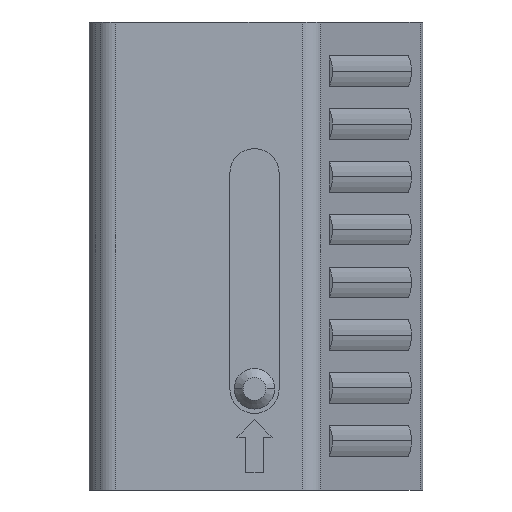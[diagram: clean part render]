
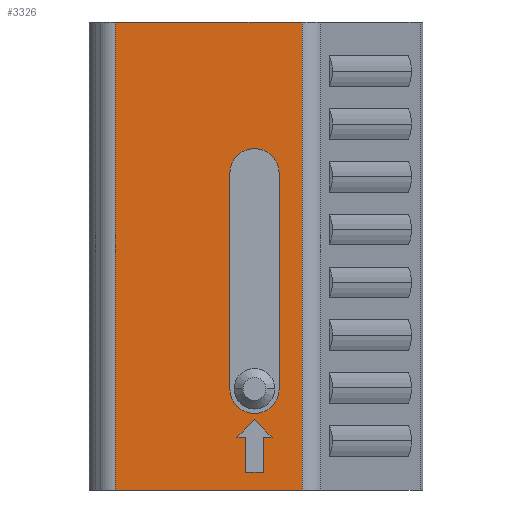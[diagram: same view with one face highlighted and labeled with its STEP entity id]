
A CAD part, left-side view. The second image highlights one B-rep face of the part: STEP entity #3326.
In plain terms, the highlighted planar face has unit normal (-1, 0, 0).
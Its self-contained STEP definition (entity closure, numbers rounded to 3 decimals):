
#9 = CARTESIAN_POINT ( 'NONE',  ( -6.1, 1., 3. ) ) ;
#18 = VECTOR ( 'NONE', #1456, 1000. ) ;
#90 = VERTEX_POINT ( 'NONE', #1454 ) ;
#115 = DIRECTION ( 'NONE',  ( 0., -1., 0. ) ) ;
#132 = EDGE_CURVE ( 'NONE', #501, #3309, #2313, .T. ) ;
#179 = DIRECTION ( 'NONE',  ( 0., -1., 0. ) ) ;
#199 = ORIENTED_EDGE ( 'NONE', *, *, #1426, .F. ) ;
#200 = ORIENTED_EDGE ( 'NONE', *, *, #2094, .F. ) ;
#203 = DIRECTION ( 'NONE',  ( 1., 0., 0. ) ) ;
#250 = VERTEX_POINT ( 'NONE', #365 ) ;
#276 = LINE ( 'NONE', #1227, #1745 ) ;
#283 = CARTESIAN_POINT ( 'NONE',  ( -6.1, -1.4, 5.75 ) ) ;
#295 = DIRECTION ( 'NONE',  ( 0., 0., 1. ) ) ;
#297 = CARTESIAN_POINT ( 'NONE',  ( -6.1, -2.714, 26.6 ) ) ;
#306 = AXIS2_PLACEMENT_3D ( 'NONE', #3093, #3375, #1611 ) ;
#312 = ORIENTED_EDGE ( 'NONE', *, *, #3606, .F. ) ;
#365 = CARTESIAN_POINT ( 'NONE',  ( -6.1, -2.714, 0. ) ) ;
#380 = DIRECTION ( 'NONE',  ( 0., -1., 0. ) ) ;
#402 = EDGE_CURVE ( 'NONE', #2026, #448, #1056, .T. ) ;
#426 = FACE_BOUND ( 'NONE', #1566, .T. ) ;
#434 = LINE ( 'NONE', #683, #1739 ) ;
#448 = VERTEX_POINT ( 'NONE', #9 ) ;
#501 = VERTEX_POINT ( 'NONE', #283 ) ;
#503 = DIRECTION ( 'NONE',  ( 0., 0., -1. ) ) ;
#557 = LINE ( 'NONE', #1721, #2055 ) ;
#567 = DIRECTION ( 'NONE',  ( 0., 0., 1. ) ) ;
#571 = VERTEX_POINT ( 'NONE', #2448 ) ;
#579 = ORIENTED_EDGE ( 'NONE', *, *, #646, .F. ) ;
#598 = VECTOR ( 'NONE', #295, 1000. ) ;
#619 = DIRECTION ( 'NONE',  ( 0., -1., 0. ) ) ;
#638 = CARTESIAN_POINT ( 'NONE',  ( -6.1, -2.714, 26.6 ) ) ;
#646 = EDGE_CURVE ( 'NONE', #1723, #2966, #2948, .T. ) ;
#652 = VECTOR ( 'NONE', #1641, 1000. ) ;
#660 = VECTOR ( 'NONE', #2053, 1000. ) ;
#673 = LINE ( 'NONE', #2748, #660 ) ;
#683 = CARTESIAN_POINT ( 'NONE',  ( -6.1, 7.903, 26.6 ) ) ;
#693 = EDGE_CURVE ( 'NONE', #3305, #571, #434, .T. ) ;
#714 = VECTOR ( 'NONE', #1137, 1000. ) ;
#715 = ORIENTED_EDGE ( 'NONE', *, *, #402, .F. ) ;
#765 = CARTESIAN_POINT ( 'NONE',  ( -6.1, 0., 4. ) ) ;
#786 = ORIENTED_EDGE ( 'NONE', *, *, #2758, .T. ) ;
#787 = VERTEX_POINT ( 'NONE', #1026 ) ;
#858 = EDGE_LOOP ( 'NONE', ( #786, #1971, #312, #2766 ) ) ;
#873 = CARTESIAN_POINT ( 'NONE',  ( -6.1, 1.4, 18. ) ) ;
#882 = EDGE_CURVE ( 'NONE', #3491, #250, #3149, .T. ) ;
#889 = CARTESIAN_POINT ( 'NONE',  ( -6.1, 0.5, 3. ) ) ;
#947 = VERTEX_POINT ( 'NONE', #873 ) ;
#1016 = LINE ( 'NONE', #2719, #1649 ) ;
#1026 = CARTESIAN_POINT ( 'NONE',  ( -6.1, 0.5, 1. ) ) ;
#1033 = CIRCLE ( 'NONE', #3059, 1.4 ) ;
#1056 = LINE ( 'NONE', #765, #652 ) ;
#1061 = DIRECTION ( 'NONE',  ( 0., 1., 0. ) ) ;
#1074 = CARTESIAN_POINT ( 'NONE',  ( -6.1, 1.4, 5.75 ) ) ;
#1083 = VECTOR ( 'NONE', #567, 1000. ) ;
#1131 = EDGE_CURVE ( 'NONE', #947, #1678, #1945, .T. ) ;
#1137 = DIRECTION ( 'NONE',  ( 0., 0., -1. ) ) ;
#1157 = DIRECTION ( 'NONE',  ( 0., -1., 0. ) ) ;
#1188 = LINE ( 'NONE', #3132, #598 ) ;
#1189 = ORIENTED_EDGE ( 'NONE', *, *, #132, .F. ) ;
#1227 = CARTESIAN_POINT ( 'NONE',  ( -6.1, 0.5, 3. ) ) ;
#1293 = CARTESIAN_POINT ( 'NONE',  ( -6.1, -0.5, 3. ) ) ;
#1294 = DIRECTION ( 'NONE',  ( -1., 0., 0. ) ) ;
#1350 = ORIENTED_EDGE ( 'NONE', *, *, #1417, .F. ) ;
#1355 = ORIENTED_EDGE ( 'NONE', *, *, #1131, .F. ) ;
#1417 = EDGE_CURVE ( 'NONE', #2186, #787, #276, .T. ) ;
#1426 = EDGE_CURVE ( 'NONE', #2966, #2026, #673, .T. ) ;
#1454 = CARTESIAN_POINT ( 'NONE',  ( -6.1, -0.5, 1. ) ) ;
#1456 = DIRECTION ( 'NONE',  ( 0., -1., 0. ) ) ;
#1566 = EDGE_LOOP ( 'NONE', ( #1189, #2601, #1355, #1729 ) ) ;
#1611 = DIRECTION ( 'NONE',  ( 0., -1., 0. ) ) ;
#1641 = DIRECTION ( 'NONE',  ( 0., 0.707, -0.707 ) ) ;
#1649 = VECTOR ( 'NONE', #179, 1000. ) ;
#1650 = CARTESIAN_POINT ( 'NONE',  ( -6.1, -1.4, 18. ) ) ;
#1669 = CARTESIAN_POINT ( 'NONE',  ( -6.1, 0., 4. ) ) ;
#1678 = VERTEX_POINT ( 'NONE', #1074 ) ;
#1679 = CARTESIAN_POINT ( 'NONE',  ( -6.1, -2.714, 26.6 ) ) ;
#1721 = CARTESIAN_POINT ( 'NONE',  ( -6.1, 1., 3. ) ) ;
#1723 = VERTEX_POINT ( 'NONE', #1763 ) ;
#1729 = ORIENTED_EDGE ( 'NONE', *, *, #1912, .F. ) ;
#1739 = VECTOR ( 'NONE', #1837, 1000. ) ;
#1745 = VECTOR ( 'NONE', #2681, 1000. ) ;
#1763 = CARTESIAN_POINT ( 'NONE',  ( -6.1, -0.5, 3. ) ) ;
#1769 = ORIENTED_EDGE ( 'NONE', *, *, #2536, .F. ) ;
#1793 = PLANE ( 'NONE',  #3126 ) ;
#1827 = CARTESIAN_POINT ( 'NONE',  ( -6.1, -2.714, 26.6 ) ) ;
#1837 = DIRECTION ( 'NONE',  ( 0., 0., -1. ) ) ;
#1877 = CARTESIAN_POINT ( 'NONE',  ( -6.1, -1., 3. ) ) ;
#1912 = EDGE_CURVE ( 'NONE', #3309, #947, #1033, .T. ) ;
#1922 = FACE_BOUND ( 'NONE', #3684, .T. ) ;
#1945 = LINE ( 'NONE', #2779, #2167 ) ;
#1971 = ORIENTED_EDGE ( 'NONE', *, *, #882, .F. ) ;
#2026 = VERTEX_POINT ( 'NONE', #1669 ) ;
#2029 = CARTESIAN_POINT ( 'NONE',  ( -6.1, -1.4, 5.75 ) ) ;
#2053 = DIRECTION ( 'NONE',  ( 0., 0.707, 0.707 ) ) ;
#2055 = VECTOR ( 'NONE', #1157, 1000. ) ;
#2094 = EDGE_CURVE ( 'NONE', #787, #90, #3189, .T. ) ;
#2115 = VECTOR ( 'NONE', #619, 1000. ) ;
#2167 = VECTOR ( 'NONE', #503, 1000. ) ;
#2171 = EDGE_CURVE ( 'NONE', #448, #2186, #557, .T. ) ;
#2186 = VERTEX_POINT ( 'NONE', #889 ) ;
#2313 = LINE ( 'NONE', #2029, #1083 ) ;
#2314 = LINE ( 'NONE', #1827, #18 ) ;
#2431 = EDGE_CURVE ( 'NONE', #1678, #501, #2704, .T. ) ;
#2448 = CARTESIAN_POINT ( 'NONE',  ( -6.1, 7.903, 0. ) ) ;
#2518 = VECTOR ( 'NONE', #380, 1000. ) ;
#2536 = EDGE_CURVE ( 'NONE', #90, #1723, #1188, .T. ) ;
#2601 = ORIENTED_EDGE ( 'NONE', *, *, #2431, .F. ) ;
#2681 = DIRECTION ( 'NONE',  ( 0., 0., -1. ) ) ;
#2704 = CIRCLE ( 'NONE', #306, 1.4 ) ;
#2719 = CARTESIAN_POINT ( 'NONE',  ( -6.1, -2.714, 0. ) ) ;
#2720 = FACE_OUTER_BOUND ( 'NONE', #858, .T. ) ;
#2748 = CARTESIAN_POINT ( 'NONE',  ( -6.1, -1., 3. ) ) ;
#2758 = EDGE_CURVE ( 'NONE', #571, #250, #1016, .T. ) ;
#2766 = ORIENTED_EDGE ( 'NONE', *, *, #693, .T. ) ;
#2779 = CARTESIAN_POINT ( 'NONE',  ( -6.1, 1.4, 5.75 ) ) ;
#2891 = CARTESIAN_POINT ( 'NONE',  ( -6.1, 0.5, 1. ) ) ;
#2948 = LINE ( 'NONE', #1293, #2518 ) ;
#2966 = VERTEX_POINT ( 'NONE', #1877 ) ;
#3059 = AXIS2_PLACEMENT_3D ( 'NONE', #3247, #1294, #115 ) ;
#3093 = CARTESIAN_POINT ( 'NONE',  ( -6.1, 0., 5.75 ) ) ;
#3126 = AXIS2_PLACEMENT_3D ( 'NONE', #638, #203, #1061 ) ;
#3132 = CARTESIAN_POINT ( 'NONE',  ( -6.1, -0.5, 1. ) ) ;
#3149 = LINE ( 'NONE', #297, #714 ) ;
#3189 = LINE ( 'NONE', #2891, #2115 ) ;
#3247 = CARTESIAN_POINT ( 'NONE',  ( -6.1, 0., 18. ) ) ;
#3305 = VERTEX_POINT ( 'NONE', #3623 ) ;
#3309 = VERTEX_POINT ( 'NONE', #1650 ) ;
#3326 = ADVANCED_FACE ( 'NONE', ( #1922, #426, #2720 ), #1793, .F. ) ;
#3375 = DIRECTION ( 'NONE',  ( -1., 0., 0. ) ) ;
#3399 = ORIENTED_EDGE ( 'NONE', *, *, #2171, .F. ) ;
#3491 = VERTEX_POINT ( 'NONE', #1679 ) ;
#3606 = EDGE_CURVE ( 'NONE', #3305, #3491, #2314, .T. ) ;
#3623 = CARTESIAN_POINT ( 'NONE',  ( -6.1, 7.903, 26.6 ) ) ;
#3684 = EDGE_LOOP ( 'NONE', ( #200, #1350, #3399, #715, #199, #579, #1769 ) ) ;
